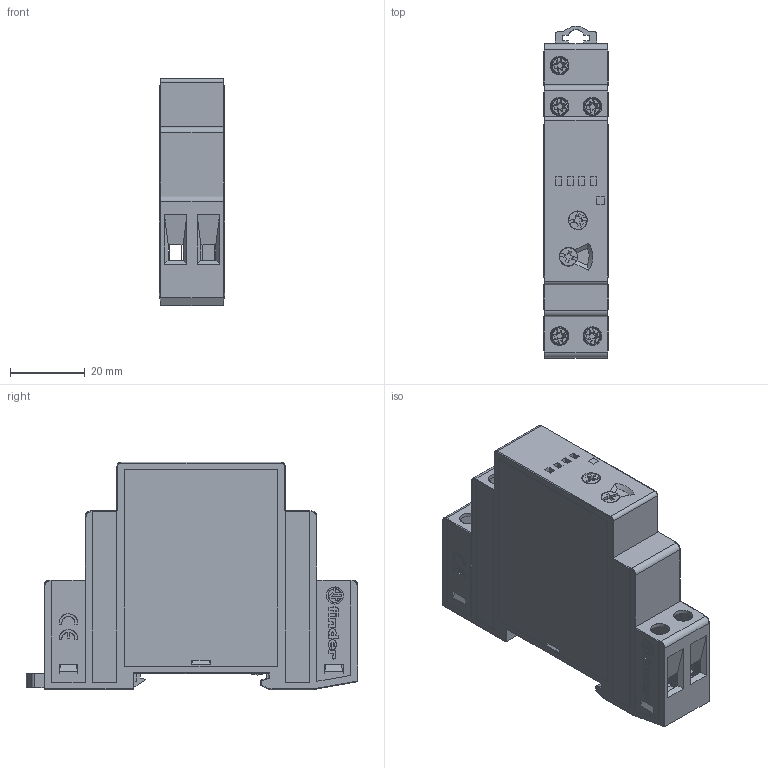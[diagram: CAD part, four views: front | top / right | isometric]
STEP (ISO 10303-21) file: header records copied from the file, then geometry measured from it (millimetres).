
FILE_DESCRIPTION(('STEP AP214'),'2;1');
FILE_NAME('8011--catalogo.stp','2011-01-27T12:18:37',(''),(''),'2007.1.106','THINKDESIGN','');
FILE_SCHEMA(('AUTOMOTIVE_DESIGN'));
Products named in the file (1): None
Bounding box: 17.5 x 88.85 x 60.8 mm (x, y, z)
Surface area: 14875.4 mm2 (no closed solid volume)
Topology: 0 solids, 0 shells, 811 faces, 4451 edges, 4441 vertices
Faces by surface type: plane 616, cylinder 98, bspline 97
Full cylindrical faces by diameter (mm): 5 x6
Entity records: 47640 total; most frequent: CARTESIAN_POINT 15564, DIRECTION 5401, COMPOSITE_CURVE_SEGMENT 4451, TRIMMED_CURVE 3779, VECTOR 3597, LINE 3597, AXIS2_PLACEMENT_3D 902, OUTER_BOUNDARY_CURVE 811
